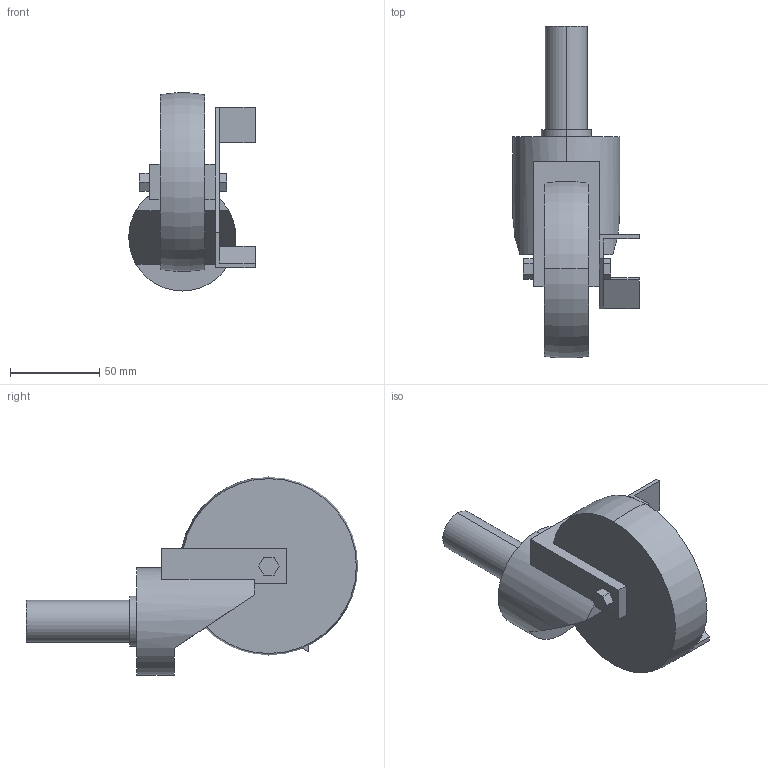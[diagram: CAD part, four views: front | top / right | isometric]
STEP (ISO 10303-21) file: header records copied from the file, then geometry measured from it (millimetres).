
FILE_DESCRIPTION (( 'STEP AP214' ), '1' );
FILE_NAME ('SUS-100SN.step', '2024-02-15T04:32:04', ( 'catia' ), ( 'HP Inc.' ), 'SwSTEP 2.0', 'SolidWorks 2021', '' );
FILE_SCHEMA (( 'AUTOMOTIVE_DESIGN' ));
Length unit declared in the file: millimetre
Products named in the file (1): SUS-100SN
Bounding box: 70.8 x 185.88 x 110.88 mm (x, y, z)
Volume: 344068.5 mm3; surface area: 44469.6 mm2
Topology: 1 solids, 1 shells, 56 faces, 144 edges, 94 vertices
Faces by surface type: plane 47, cylinder 6, torus 3
Entity records: 1726 total; most frequent: CARTESIAN_POINT 313, ORIENTED_EDGE 288, DIRECTION 278, EDGE_CURVE 144, LINE 116, VECTOR 116, VERTEX_POINT 94, AXIS2_PLACEMENT_3D 81
